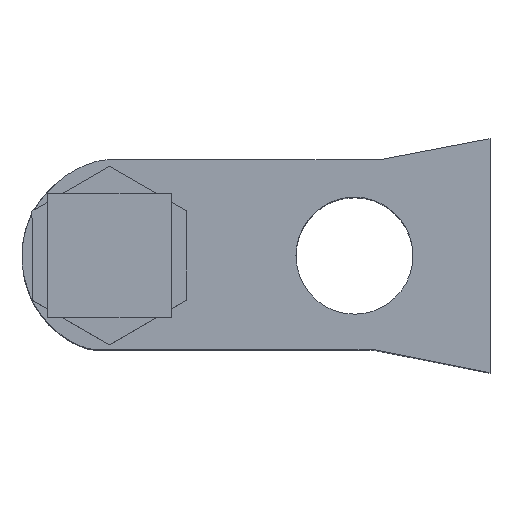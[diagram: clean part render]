
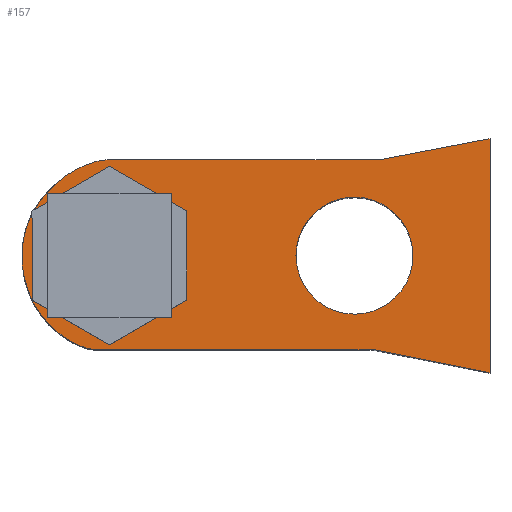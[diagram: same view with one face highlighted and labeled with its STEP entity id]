
A CAD part, top view. The second image highlights one B-rep face of the part: STEP entity #157.
In plain terms, the highlighted planar face has unit normal (0, 0, 1).
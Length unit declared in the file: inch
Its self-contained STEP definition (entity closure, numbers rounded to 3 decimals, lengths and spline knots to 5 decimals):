
#157=ADVANCED_FACE('',(#302,#303),#304,.T.);
#302=FACE_BOUND('',#537,.T.);
#303=FACE_OUTER_BOUND('',#538,.T.);
#304=PLANE('',#539);
#537=EDGE_LOOP('',(#829,#830,#831,#832));
#538=EDGE_LOOP('',(#833,#834,#835,#836,#837,#838,#839));
#539=AXIS2_PLACEMENT_3D('',#840,#841,#842);
#829=ORIENTED_EDGE('',*,*,#1009,.T.);
#830=ORIENTED_EDGE('',*,*,#946,.T.);
#831=ORIENTED_EDGE('',*,*,#960,.T.);
#832=ORIENTED_EDGE('',*,*,#964,.T.);
#833=ORIENTED_EDGE('',*,*,#922,.F.);
#834=ORIENTED_EDGE('',*,*,#991,.F.);
#835=ORIENTED_EDGE('',*,*,#894,.F.);
#836=ORIENTED_EDGE('',*,*,#934,.F.);
#837=ORIENTED_EDGE('',*,*,#1016,.F.);
#838=ORIENTED_EDGE('',*,*,#996,.F.);
#839=ORIENTED_EDGE('',*,*,#975,.F.);
#840=CARTESIAN_POINT('',(0.73346,0.3821,0.0));
#841=DIRECTION('',(0.0,0.0,1.0));
#842=DIRECTION('',(1.0,0.0,0.0));
#894=EDGE_CURVE('',#1045,#1047,#1048,.T.);
#922=EDGE_CURVE('',#1096,#1098,#1099,.T.);
#934=EDGE_CURVE('',#1115,#1045,#1117,.T.);
#946=EDGE_CURVE('',#1135,#1133,#1136,.T.);
#960=EDGE_CURVE('',#1133,#1152,#1154,.T.);
#964=EDGE_CURVE('',#1152,#1158,#1160,.T.);
#975=EDGE_CURVE('',#1098,#1174,#1175,.T.);
#991=EDGE_CURVE('',#1047,#1096,#1196,.T.);
#996=EDGE_CURVE('',#1174,#1202,#1203,.T.);
#1009=EDGE_CURVE('',#1158,#1135,#1216,.T.);
#1016=EDGE_CURVE('',#1202,#1115,#1224,.T.);
#1045=VERTEX_POINT('',#1262);
#1047=VERTEX_POINT('',#1265);
#1048=LINE('',#1266,#1267);
#1096=VERTEX_POINT('',#1344);
#1098=VERTEX_POINT('',#1347);
#1099=LINE('',#1348,#1349);
#1115=VERTEX_POINT('',#1391);
#1117=LINE('',#1394,#1395);
#1133=VERTEX_POINT('',#1440);
#1135=VERTEX_POINT('',#1443);
#1136=B_SPLINE_CURVE_WITH_KNOTS('',3,(#1444,#1445,#1446,#1447),.UNSPECIFIED.,.F.,.F.,(4,4),(0.0,1.0),.UNSPECIFIED.);
#1152=VERTEX_POINT('',#1473);
#1154=B_SPLINE_CURVE_WITH_KNOTS('',3,(#1476,#1477,#1478,#1479),.UNSPECIFIED.,.F.,.F.,(4,4),(0.0,1.0),.UNSPECIFIED.);
#1158=VERTEX_POINT('',#1486);
#1160=B_SPLINE_CURVE_WITH_KNOTS('',3,(#1489,#1490,#1491,#1492),.UNSPECIFIED.,.F.,.F.,(4,4),(0.0,1.0),.UNSPECIFIED.);
#1174=VERTEX_POINT('',#1517);
#1175=B_SPLINE_CURVE_WITH_KNOTS('',3,(#1518,#1519,#1520,#1521),.UNSPECIFIED.,.F.,.F.,(4,4),(0.0,1.0),.UNSPECIFIED.);
#1196=LINE('',#1573,#1574);
#1202=VERTEX_POINT('',#1586);
#1203=B_SPLINE_CURVE_WITH_KNOTS('',3,(#1587,#1588,#1589,#1590),.UNSPECIFIED.,.F.,.F.,(4,4),(0.0,1.0),.UNSPECIFIED.);
#1216=B_SPLINE_CURVE_WITH_KNOTS('',3,(#1622,#1623,#1624,#1625),.UNSPECIFIED.,.F.,.F.,(4,4),(0.0,1.0),.UNSPECIFIED.);
#1224=LINE('',#1646,#1647);
#1262=CARTESIAN_POINT('',(1.62497,0.88146,0.0));
#1265=CARTESIAN_POINT('',(1.62497,-0.11812,0.0));
#1266=CARTESIAN_POINT('',(1.62497,0.88146,0.0));
#1267=VECTOR('',#1664,1.0);
#1344=CARTESIAN_POINT('',(1.12949,-0.0202,0.0));
#1347=CARTESIAN_POINT('',(-0.05466,-0.02015,0.0));
#1348=CARTESIAN_POINT('',(1.12949,-0.0202,0.0));
#1349=VECTOR('',#1683,1.0);
#1391=CARTESIAN_POINT('',(1.15579,0.79171,0.0));
#1394=CARTESIAN_POINT('',(1.15579,0.79171,0.0));
#1395=VECTOR('',#1691,1.0);
#1440=CARTESIAN_POINT('',(1.29602,0.38166,0.0));
#1443=CARTESIAN_POINT('',(1.04612,0.63157,0.0));
#1444=CARTESIAN_POINT('',(1.04612,0.63157,0.0));
#1445=CARTESIAN_POINT('',(1.18415,0.63157,0.0));
#1446=CARTESIAN_POINT('',(1.29602,0.51968,0.0));
#1447=CARTESIAN_POINT('',(1.29602,0.38166,0.0));
#1473=CARTESIAN_POINT('',(1.04612,0.13177,0.0));
#1476=CARTESIAN_POINT('',(1.29602,0.38166,0.0));
#1477=CARTESIAN_POINT('',(1.29602,0.24365,0.0));
#1478=CARTESIAN_POINT('',(1.18415,0.13177,0.0));
#1479=CARTESIAN_POINT('',(1.04612,0.13177,0.0));
#1486=CARTESIAN_POINT('',(0.79623,0.38166,0.0));
#1489=CARTESIAN_POINT('',(1.04612,0.13177,0.0));
#1490=CARTESIAN_POINT('',(0.90811,0.13177,0.0));
#1491=CARTESIAN_POINT('',(0.79623,0.24365,0.0));
#1492=CARTESIAN_POINT('',(0.79623,0.38166,0.0));
#1517=CARTESIAN_POINT('',(-0.37424,0.38125,0.0));
#1518=CARTESIAN_POINT('',(-0.05466,-0.02015,0.0));
#1519=CARTESIAN_POINT('',(-0.14964,-0.02015,0.0));
#1520=CARTESIAN_POINT('',(-0.37424,0.11098,0.0));
#1521=CARTESIAN_POINT('',(-0.37424,0.38125,0.0));
#1573=CARTESIAN_POINT('',(1.62497,-0.11812,0.0));
#1574=VECTOR('',#1716,1.0);
#1586=CARTESIAN_POINT('',(-0.00061,0.79173,0.0));
#1587=CARTESIAN_POINT('',(-0.37424,0.38125,0.0));
#1588=CARTESIAN_POINT('',(-0.37424,0.64947,0.0));
#1589=CARTESIAN_POINT('',(-0.12128,0.79173,0.0));
#1590=CARTESIAN_POINT('',(-0.00061,0.79173,0.0));
#1622=CARTESIAN_POINT('',(0.79623,0.38166,0.0));
#1623=CARTESIAN_POINT('',(0.79623,0.51968,0.0));
#1624=CARTESIAN_POINT('',(0.90811,0.63157,0.0));
#1625=CARTESIAN_POINT('',(1.04612,0.63157,0.0));
#1646=CARTESIAN_POINT('',(-0.00061,0.79173,0.0));
#1647=VECTOR('',#1724,1.0);
#1664=DIRECTION('',(0.0,-1.0,0.0));
#1683=DIRECTION('',(-1.,0.,0.0));
#1691=DIRECTION('',(0.982,0.188,0.0));
#1716=DIRECTION('',(-0.981,0.194,0.0));
#1724=DIRECTION('',(1.,0.,0.0));
